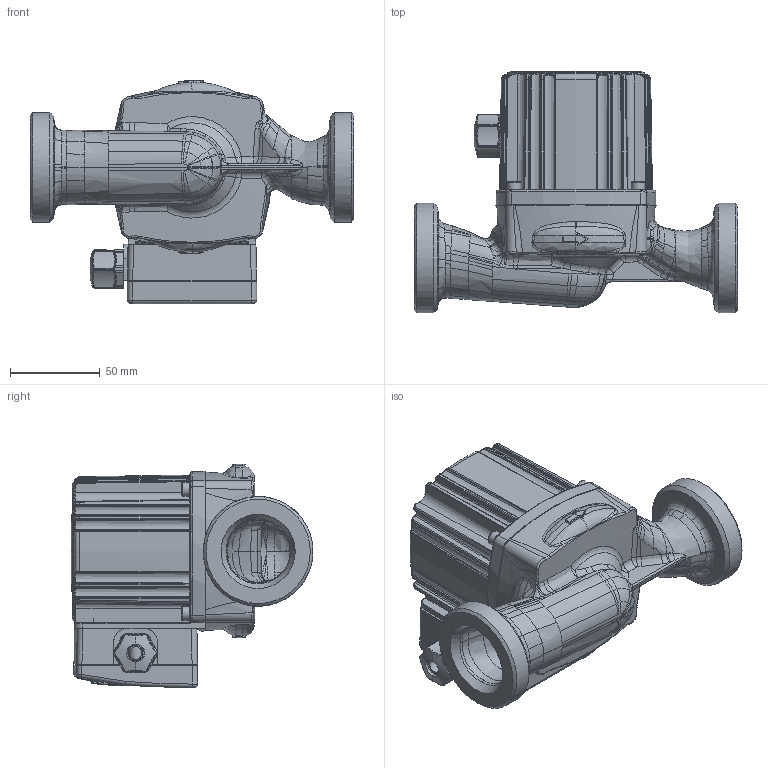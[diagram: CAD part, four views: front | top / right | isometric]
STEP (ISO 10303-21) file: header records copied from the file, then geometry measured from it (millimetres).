
FILE_DESCRIPTION(('STEP AP242'), '1');
FILE_NAME('VRS.324.18 326.18', '2025-10-08T11:56:27', (''), (''), 'C3D Converter', 'C3D Toolkit', '');
FILE_SCHEMA(('AP242_MANAGED_MODEL_BASED_3D_ENGINEERING_MIM_LF { 1 0 10303 442 1 1 4 }'));
Length unit declared in the file: millimetre
Products named in the file (1): 32-4E-180_ASM
Bounding box: 180 x 134.54 x 124.2 mm (x, y, z)
Volume: 138111.6 mm3; surface area: 184406.2 mm2
Topology: 11 solids, 28 shells, 2870 faces, 7294 edges, 4418 vertices
Faces by surface type: bspline 867, plane 683, cylinder 658, torus 453, cone 121, sphere 69, extrusion 19
Full cylindrical faces by diameter (mm): 3 x4, 3.3 x4, 4 x6, 4.3 x4, 4.5 x3, 5 x7, 7 x3, 7.5 x5, 7.6 x4, 8 x2, 9 x2, 10 x3, 12 x1, 14 x2, 16 x1, 17.1 x1, 19 x2, 21 x1, 23.5 x1, 25.6 x1, 26 x1, 28.5 x1, 32.5 x1, 35.5 x1, 38.25 x1, 39 x1, 61 x2, 71 x1, 74 x1, 76 x1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
Entity records: 304052 total; most frequent: CARTESIAN_POINT 225520, ORIENTED_EDGE 13882, DIRECTION 7549, EDGE_CURVE 6955, VERTEX_POINT 4373, B_SPLINE_CURVE_WITH_KNOTS 4333, EDGE_LOOP 3111, AXIS2_PLACEMENT_3D 3020
